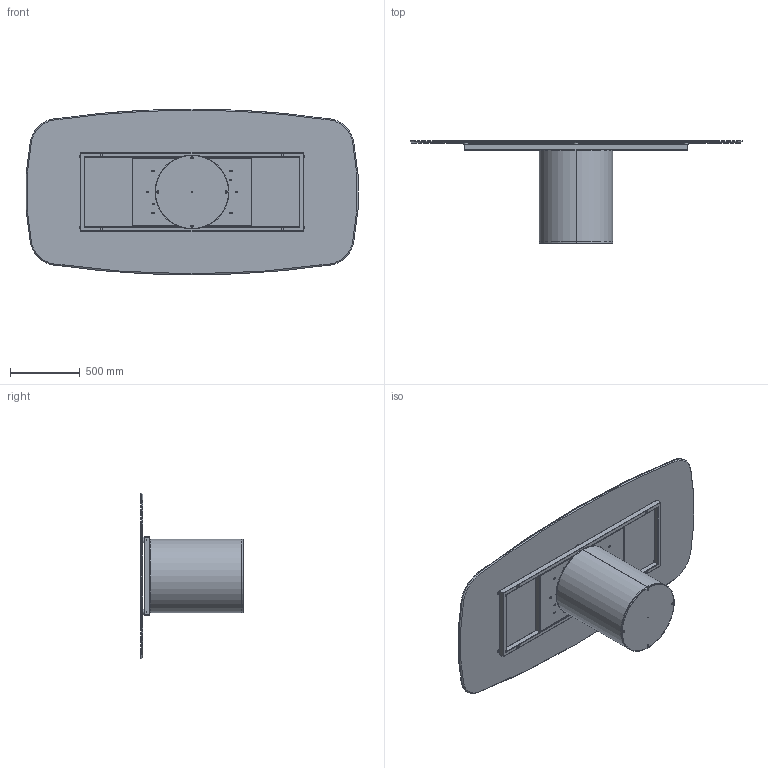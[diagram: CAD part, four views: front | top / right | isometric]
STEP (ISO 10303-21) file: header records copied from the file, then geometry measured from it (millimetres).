
FILE_DESCRIPTION (( 'STEP AP203' ), '1' );
FILE_NAME ('CI42C.STEP', '2024-08-08T07:25:59', ( '' ), ( '' ), 'SwSTEP 2.0', 'SolidWorks 2022', '' );
FILE_SCHEMA (( 'CONFIG_CONTROL_DESIGN' ));
Length unit declared in the file: millimetre
Products named in the file (11): C2B000000_01-00-struttura cilindro D.530mm; 434070-00-PIEDINO TPV GOMMA NERO D. 30x8max18_filo estetico; TTAV01_01-05-TELAIO UNIVERSALE X TAVOLI 180 240cm; TTAV01_02-05-VASSOIO IRRIGIDIMENTO TELAIO UNIVERSALE; CI42C; K4XCMXX-00-Piani Sagomati in ceramica_2390 x 1190; TTAV01-05-TELAIO UNIVERSALE X TAVOLI 180 240cm; C2B000000-03-CILINDRO BASE D.530mm_Normale; C2B000000_02-01-ZAVORRA IN FERRO D.530mm; COLLO TELAIO UNIVERSALE TTAV01 CON FERRAMENTA_MTG TOP CRISTALLO VERNICIATO-CERAMICA; M8xXXmm_hex_M8X20mm
Assembly tree (18 placements, depth 4):
  CI42C
    C2B000000-03-CILINDRO BASE D.530mm_Normale
      C2B000000_01-00-struttura cilindro D.530mm
      C2B000000_02-01-ZAVORRA IN FERRO D.530mm
      M8xXXmm_hex_M8X20mm  x4
    COLLO TELAIO UNIVERSALE TTAV01 CON FERRAMENTA_MTG TOP CRISTALLO VERNICIATO-CERAMICA
      TTAV01-05-TELAIO UNIVERSALE X TAVOLI 180 240cm
        TTAV01_02-05-VASSOIO IRRIGIDIMENTO TELAIO UNIVERSALE
        TTAV01_01-05-TELAIO UNIVERSALE X TAVOLI 180 240cm
      434070-00-PIEDINO TPV GOMMA NERO D. 30x8max18_filo estetico  x6
    K4XCMXX-00-Piani Sagomati in ceramica_2390 x 1190
Bounding box: 2382.15 x 736 x 1190 mm (x, y, z)
Volume: 50447347 mm3; surface area: 15675578.2 mm2
Topology: 25 solids, 25 shells, 589 faces, 1373 edges, 820 vertices
Faces by surface type: plane 254, cylinder 240, cone 41, torus 32, sphere 22
Entity records: 14232 total; most frequent: DIRECTION 2381, CARTESIAN_POINT 2177, ORIENTED_EDGE 2102, EDGE_CURVE 1051, AXIS2_PLACEMENT_3D 887, VERTEX_POINT 651, LINE 607, VECTOR 607
